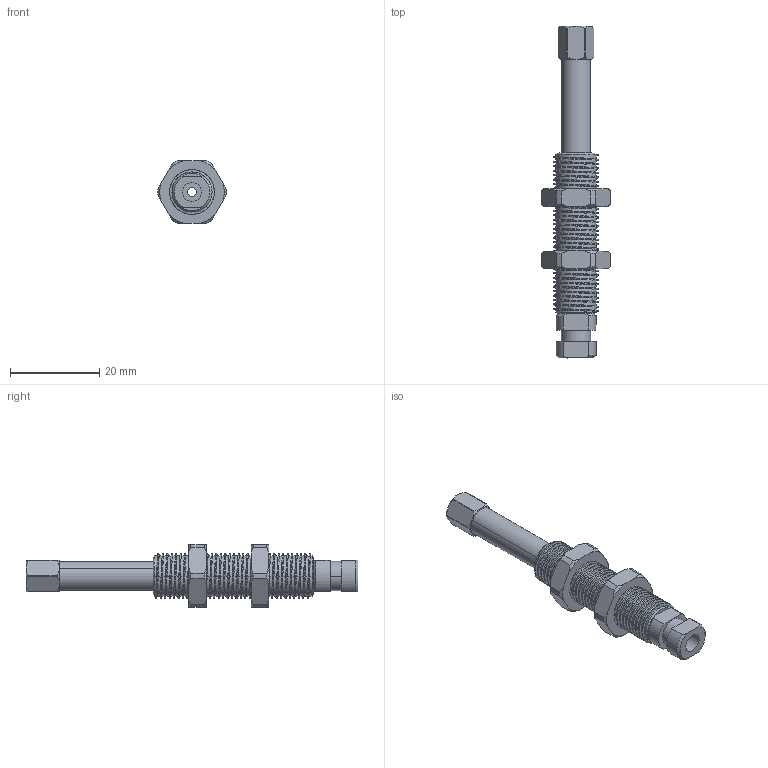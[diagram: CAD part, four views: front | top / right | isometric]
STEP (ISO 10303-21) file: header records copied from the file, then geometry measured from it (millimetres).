
FILE_DESCRIPTION (( 'STEP AP214' ), '1' );
FILE_NAME ('VFRS-20M10-M5.STEP', '2019-11-15T08:51:44', ( '微软用户' ), ( '微软中国' ), 'SwSTEP 2.0', 'SolidWorks 2016', '' );
FILE_SCHEMA (( 'AUTOMOTIVE_DESIGN' ));
Length unit declared in the file: millimetre
Products named in the file (1): VFRS-20M10-M5
Bounding box: 15.5 x 74.5 x 14 mm (x, y, z)
Volume: 3906.8 mm3; surface area: 5986.8 mm2
Topology: 5 solids, 5 shells, 209 faces, 561 edges, 367 vertices
Faces by surface type: cylinder 119, cone 48, plane 39, bspline 3
Entity records: 16641 total; most frequent: CARTESIAN_POINT 9410, ORIENTED_EDGE 1122, DIRECTION 898, EDGE_CURVE 561, VERTEX_POINT 367, AXIS2_PLACEMENT_3D 355, EDGE_LOOP 224, UNCERTAINTY_MEASURE_WITH_UNIT 216
